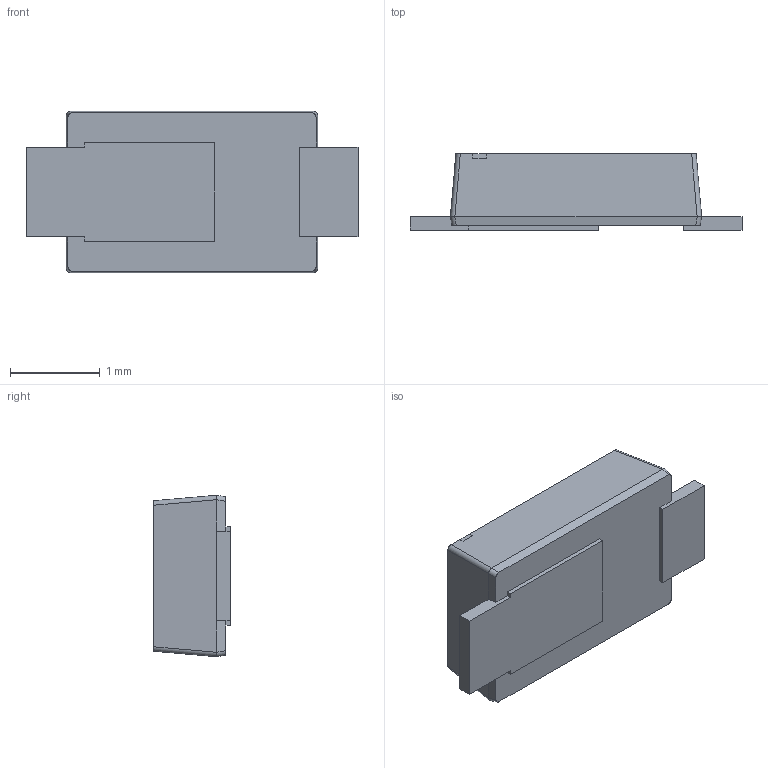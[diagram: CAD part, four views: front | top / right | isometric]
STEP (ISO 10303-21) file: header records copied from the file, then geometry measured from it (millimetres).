
FILE_DESCRIPTION (( 'STEP AP214' ), '1' );
FILE_NAME ('SS12LSH.STEP', '2023-02-27T17:58:10', ( '' ), ( '' ), 'SwSTEP 2.0', 'SolidWorks 2021', '' );
FILE_SCHEMA (( 'AUTOMOTIVE_DESIGN' ));
Length unit declared in the file: millimetre
Products named in the file (1): SS12LSH
Bounding box: 3.7 x 0.85 x 1.8 mm (x, y, z)
Volume: 4.1 mm3; surface area: 25 mm2
Topology: 4 solids, 4 shells, 58 faces, 146 edges, 96 vertices
Faces by surface type: plane 50, cylinder 8
Entity records: 1759 total; most frequent: CARTESIAN_POINT 361, ORIENTED_EDGE 292, DIRECTION 244, EDGE_CURVE 146, LINE 126, VECTOR 126, VERTEX_POINT 96, AXIS2_PLACEMENT_3D 59
